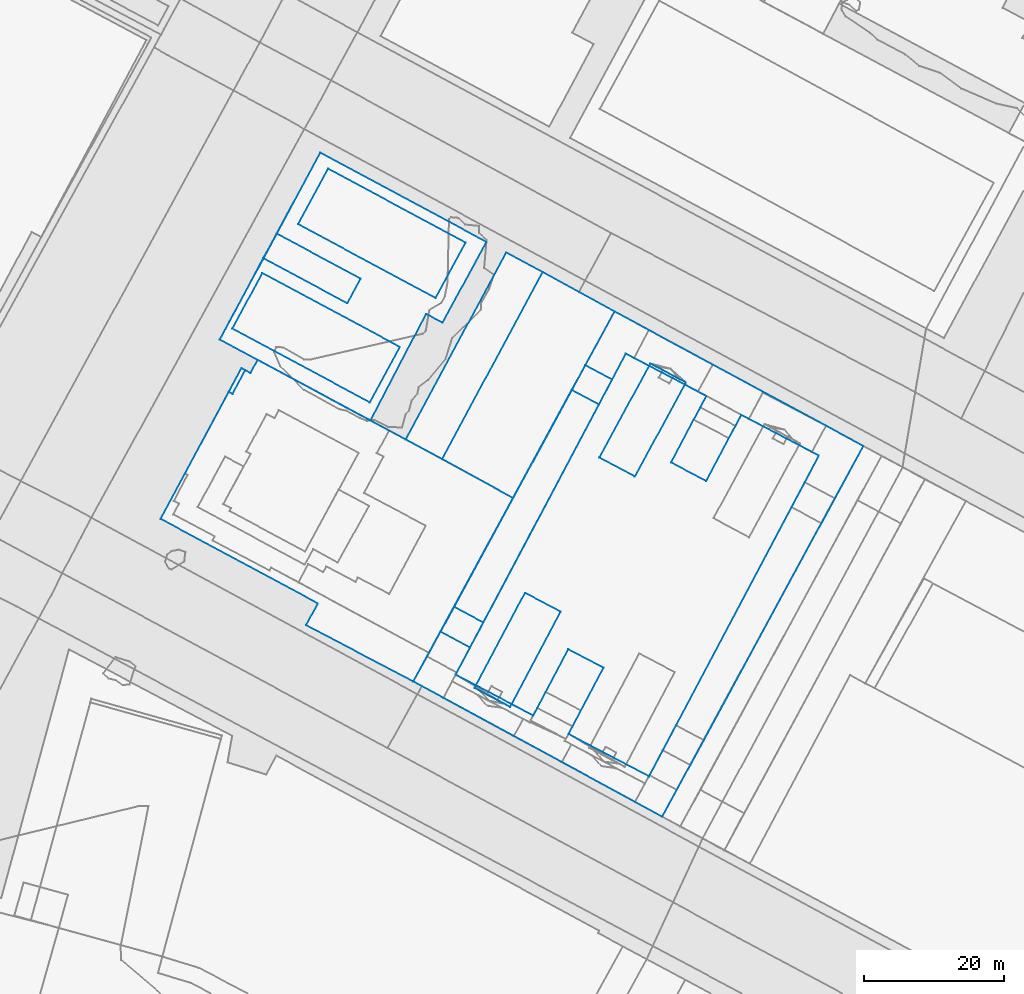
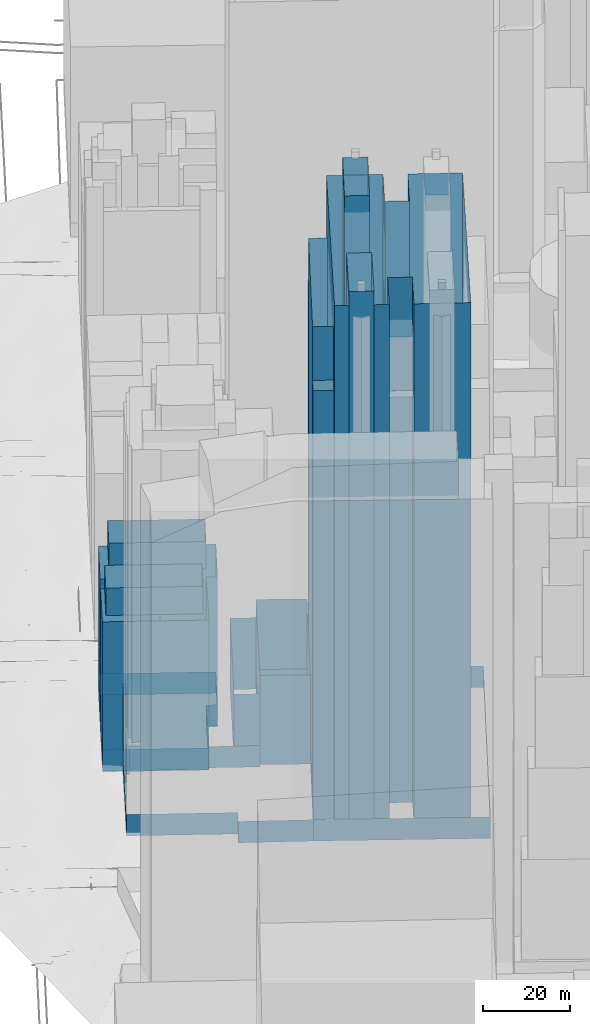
# Not in any storey, part 18 of 76: 16 walls.
"""IFC2X3 model written with IfcOpenShell, lengths in metres."""

from ifc_helpers import new_model, si_unit, frame, origin_with_axes, place, context, subcontext, project, faceted_brep, element, save


model = new_model("IFC2X3")

# Units and contexts
model_context = context("Model", 3, precision=1e-05, world=origin_with_axes())
body_context = subcontext(model_context, "Body", "Model", "MODEL_VIEW")
ifc_project = project(units=[si_unit("AREAUNIT", "SQUARE_METRE"), si_unit("LENGTHUNIT", "METRE")], contexts=[model_context])

# Walls
wall_1_placement = place(None, frame((85.8586663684, 128.8500079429, 20.7906594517), z_axis=(0.0, 0.0, 1.0), x_axis=(1.0, 0.0, 0.0)))
element("IfcWall", 1, at=wall_1_placement, Name="Mur 0", context=body_context, shape_type="Brep", body=[
    faceted_brep([(11.1010060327, -5.844095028, 147.0), (0.0, 0.0, 147.0), (11.1010060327, -5.844095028, 0.0), (0.0, 0.0, 0.0), (16.1233334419, 3.6400451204, 147.0), (16.1233334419, 3.6400451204, 0.0), (21.1599686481, 0.9895951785, 147.0), (21.1599686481, 0.9895951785, 0.0), (16.1375167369, -8.4834476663, 147.0), (16.1375167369, -8.4834476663, 0.0), (27.6547095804, -14.544729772, 147.0), (27.6547095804, -14.544729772, 0.0), (51.973663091, 31.3347461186, 147.0), (51.973663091, 31.3347461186, 0.0), (40.8642373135, 37.1786817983, 147.0), (40.8642373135, 37.1786817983, 0.0), (35.8417076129, 27.7167250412, 147.0), (35.8417076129, 27.7167250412, 0.0), (30.8135250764, 30.3672629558, 147.0), (30.8135250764, 30.3672629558, 0.0), (35.8607355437, 39.8850142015, 147.0), (35.8607355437, 39.8850142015, 0.0), (24.3521878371, 45.9352801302, 147.0), (24.3521878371, 45.9352801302, 0.0)], [[[0, 1, 2]], [[2, 1, 3]], [[4, 0, 5]], [[5, 0, 2]], [[6, 4, 7]], [[7, 4, 5]], [[8, 6, 9]], [[9, 6, 7]], [[10, 8, 11]], [[11, 8, 9]], [[12, 10, 13]], [[13, 10, 11]], [[14, 12, 15]], [[15, 12, 13]], [[16, 14, 17]], [[17, 14, 15]], [[18, 16, 19]], [[19, 16, 17]], [[20, 18, 21]], [[21, 18, 19]], [[1, 22, 3]], [[3, 22, 23]], [[22, 20, 23]], [[23, 20, 21]]]),
])
wall_2_placement = place(None, frame((79.7834254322, 127.8912834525, 20.6975796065), z_axis=(0.0, 0.0, 1.0), x_axis=(1.0, 0.0, 0.0)))
element("IfcWall", 2, at=wall_2_placement, Name="Mur 0", context=body_context, shape_type="Brep", body=[
    faceted_brep([(35.637279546, -19.3592245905, 6.0), (0.0, 0.0, 6.0), (35.637279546, -19.3592245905, 0.0), (0.0, 0.0, 0.0), (64.4060548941, 33.6885073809, 6.0), (64.4060548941, 33.6885073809, 0.0), (28.8041259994, 52.9258761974, 6.0), (28.8041259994, 52.9258761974, 0.0)], [[[0, 1, 2]], [[2, 1, 3]], [[4, 0, 5]], [[5, 0, 2]], [[1, 6, 3]], [[3, 6, 7]], [[6, 4, 7]], [[7, 4, 5]]]),
])
wall_3_placement = place(None, frame((106.4243167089, 159.930902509, 21.4761548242), z_axis=(0.0, 0.0, 1.0), x_axis=(1.0, 0.0, 0.0)))
element("IfcWall", 3, at=wall_3_placement, Name="Mur 0", context=body_context, shape_type="Brep", body=[
    faceted_brep([(5.0797232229, -2.7276618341, 151.0), (0.0, 0.0, 151.0), (5.0797232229, -2.7276618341, 0.0), (0.0, 0.0, 0.0), (12.3774646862, 10.7131197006, 151.0), (12.3774646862, 10.7131197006, 0.0), (7.2976187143, 13.4518772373, 151.0), (7.2976187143, 13.4518772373, 0.0)], [[[0, 1, 2]], [[2, 1, 3]], [[4, 0, 5]], [[5, 0, 2]], [[1, 6, 3]], [[3, 6, 7]], [[6, 4, 7]], [[7, 4, 5]]]),
])
wall_4_placement = place(None, frame((102.4881306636, 169.5885518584, 21.7443464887), z_axis=(0.0, 0.0, 1.0), x_axis=(1.0, 0.0, 0.0)))
element("IfcWall", 4, at=wall_4_placement, Name="Mur 0", context=body_context, shape_type="Brep", body=[
    faceted_brep([(3.865132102, -2.0867392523, 120.0), (0.0, 0.0, 120.0), (3.865132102, -2.0867392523, 0.0), (0.0, 0.0, 0.0), (5.7567207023, 1.4879525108, 120.0), (5.7567207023, 1.4879525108, 0.0), (1.9256092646, 3.5528813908, 120.0), (1.9256092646, 3.5528813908, 0.0)], [[[0, 1, 2]], [[2, 1, 3]], [[4, 0, 5]], [[5, 0, 2]], [[1, 6, 3]], [[3, 6, 7]], [[6, 4, 7]], [[7, 4, 5]]]),
])
wall_5_placement = place(None, frame((78.7061684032, 162.506692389, 21.2045848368), z_axis=(0.0, 0.0, 1.0), x_axis=(1.0, 0.0, 0.0)))
element("IfcWall", 5, at=wall_5_placement, Name="Mur 0", context=body_context, shape_type="Brep", body=[
    faceted_brep([(5.2156594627, -2.803817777, 20.0), (0.0, 0.0, 20.0), (5.2156594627, -2.803817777, 0.0), (0.0, 0.0, 0.0), (19.5931770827, 23.953040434, 20.0), (19.5931770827, 23.953040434, 0.0), (14.377530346, 26.7568479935, 20.0), (14.377530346, 26.7568479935, 0.0)], [[[0, 1, 2]], [[2, 1, 3]], [[4, 0, 5]], [[5, 0, 2]], [[1, 6, 3]], [[3, 6, 7]], [[6, 4, 7]], [[7, 4, 5]]]),
])
wall_6_placement = place(None, frame((53.9063589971, 178.3836490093, 62.2466982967), z_axis=(0.0, 0.0, 1.0), x_axis=(1.0, 0.0, 0.0)))
element("IfcWall", 6, at=wall_6_placement, Name="Mur 0", context=body_context, shape_type="Brep", body=[
    faceted_brep([(19.6563100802, -10.5631889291, 7.7000007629), (0.0, 0.0, 7.7000007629), (19.6563100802, -10.5631889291, 0.0), (0.0, 0.0, 0.0), (23.9622377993, -2.6305951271, 7.7000007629), (23.9622377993, -2.6305951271, 0.0), (4.2973726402, 7.9435850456, 7.7000007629), (4.2973726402, 7.9435850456, 0.0)], [[[0, 1, 2]], [[2, 1, 3]], [[4, 0, 5]], [[5, 0, 2]], [[1, 6, 3]], [[3, 6, 7]], [[6, 4, 7]], [[7, 4, 5]]]),
])
wall_7_placement = place(None, frame((52.1098467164, 176.7973780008, 20.2692366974), z_axis=(0.0, 0.0, 1.0), x_axis=(1.0, 0.0, 0.0)))
element("IfcWall", 7, at=wall_7_placement, Name="Mur 0", context=body_context, shape_type="Brep", body=[
    faceted_brep([(21.5590744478, -11.5847130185, 6.0), (0.0, 0.0, 6.0), (21.5590744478, -11.5847130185, 0.0), (0.0, 0.0, 0.0), (29.5109655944, 3.6843947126, 6.0), (29.5109655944, 3.6843947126, 0.0), (31.872471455, 2.412853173, 6.0), (31.872471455, 2.412853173, 0.0), (38.1367223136, 13.9875293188, 6.0), (38.1367223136, 13.9875293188, 0.0), (14.3775952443, 26.7567958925, 6.0), (14.3775952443, 26.7567958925, 0.0)], [[[0, 1, 2]], [[2, 1, 3]], [[4, 0, 5]], [[5, 0, 2]], [[6, 4, 7]], [[7, 4, 5]], [[8, 6, 9]], [[9, 6, 7]], [[1, 10, 3]], [[3, 10, 11]], [[10, 8, 11]], [[11, 8, 9]]]),
])
wall_8_placement = place(None, frame((52.1098467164, 176.7973780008, 20.0588630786), z_axis=(0.0, 0.0, 1.0), x_axis=(1.0, 0.0, 0.0)))
element("IfcWall", 8, at=wall_8_placement, Name="Mur 0", context=body_context, shape_type="Brep", body=[
    faceted_brep([(21.5590744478, -11.5847130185, 42.0), (0.0, 0.0, 42.0), (21.5590744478, -11.5847130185, 0.0), (0.0, 0.0, 0.0), (29.5109655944, 3.6843947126, 42.0), (29.5109655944, 3.6843947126, 0.0), (31.872471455, 2.412853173, 42.0), (31.872471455, 2.412853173, 0.0), (38.1367223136, 13.9875293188, 42.0), (38.1367223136, 13.9875293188, 0.0), (14.3775952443, 26.7567958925, 42.0), (14.3775952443, 26.7567958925, 0.0), (8.1303289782, 15.1712352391, 42.0), (8.1303289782, 15.1712352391, 0.0), (20.1415581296, 8.715946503, 42.0), (20.1415581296, 8.715946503, 0.0), (18.2324312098, 5.1965718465, 42.0), (18.2324312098, 5.1965718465, 0.0), (6.2211982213, 11.6518637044, 42.0), (6.2211982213, 11.6518637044, 0.0)], [[[0, 1, 2]], [[2, 1, 3]], [[4, 0, 5]], [[5, 0, 2]], [[6, 4, 7]], [[7, 4, 5]], [[8, 6, 9]], [[9, 6, 7]], [[10, 8, 11]], [[11, 8, 9]], [[12, 10, 13]], [[13, 10, 11]], [[14, 12, 15]], [[15, 12, 13]], [[16, 14, 17]], [[17, 14, 15]], [[1, 18, 3]], [[3, 18, 19]], [[18, 16, 19]], [[19, 16, 17]]]),
])
wall_9_placement = place(None, frame((63.3141408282, 193.3143650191, 62.430841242), z_axis=(0.0, 0.0, 1.0), x_axis=(1.0, 0.0, 0.0)))
element("IfcWall", 9, at=wall_9_placement, Name="Mur 0", context=body_context, shape_type="Brep", body=[
    faceted_brep([(19.6564142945, -10.5742645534, 7.7000007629), (0.0, 0.0, 7.7000007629), (19.6564142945, -10.5742645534, 0.0), (0.0, 0.0, 0.0), (23.9623227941, -2.6416648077, 7.7000007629), (23.9623227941, -2.6416648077, 0.0), (4.2974822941, 7.9324902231, 7.7000007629), (4.2974822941, 7.9324902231, 0.0)], [[[0, 1, 2]], [[2, 1, 3]], [[4, 0, 5]], [[5, 0, 2]], [[1, 6, 3]], [[3, 6, 7]], [[6, 4, 7]], [[7, 4, 5]]]),
])
wall_10_placement = place(None, frame((58.3310449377, 188.4492417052, 20.0588630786), z_axis=(0.0, 0.0, 1.0), x_axis=(1.0, 0.0, 0.0)))
element("IfcWall", 10, at=wall_10_placement, Name="Mur 0", context=body_context, shape_type="Brep", body=[
    faceted_brep([(12.0112329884, -6.4552918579, 5.0), (0.0, 0.0, 5.0), (12.0112329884, -6.4552918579, 0.0), (0.0, 0.0, 0.0), (13.9203599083, -2.9359172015, 5.0), (13.9203599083, -2.9359172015, 0.0), (1.9091307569, 3.5193715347, 5.0), (1.9091307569, 3.5193715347, 0.0)], [[[0, 1, 2]], [[2, 1, 3]], [[4, 0, 5]], [[5, 0, 2]], [[1, 6, 3]], [[3, 6, 7]], [[6, 4, 7]], [[7, 4, 5]]]),
])
wall_11_placement = place(None, frame((53.3786072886, 169.3069851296, 21.038693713), z_axis=(0.0, 0.0, 1.0), x_axis=(1.0, 0.0, 0.0)))
element("IfcWall", 11, at=wall_11_placement, Name="Mur 0", context=body_context, shape_type="Brep", body=[
    faceted_brep([(0.5353523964, -0.3046485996, 25.0), (0.0, 0.0, 25.0), (0.5353523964, -0.3046485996, 0.0), (0.0, 0.0, 0.0), (2.3698157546, 3.1028322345, 25.0), (2.3698157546, 3.1028322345, 0.0), (1.8261519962, 3.3962819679, 25.0), (1.8261519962, 3.3962819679, 0.0)], [[[0, 1, 2]], [[2, 1, 3]], [[4, 0, 5]], [[5, 0, 2]], [[1, 6, 3]], [[3, 6, 7]], [[6, 4, 7]], [[7, 4, 5]]]),
])
wall_12_placement = place(None, frame((43.6198790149, 151.1525582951, 20.6875388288), z_axis=(0.0, 0.0, 1.0), x_axis=(1.0, 0.0, 0.0)))
element("IfcWall", 12, at=wall_12_placement, Name="Mur 0", context=body_context, shape_type="Brep", body=[
    faceted_brep([(22.5189582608, -12.0954008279, 6.0), (0.0, 0.0, 6.0), (22.5189582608, -12.0954008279, 0.0), (0.0, 0.0, 0.0), (20.8331965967, -15.2236014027, 6.0), (20.8331965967, -15.2236014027, 0.0), (36.1635464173, -23.2612748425, 6.0), (36.1635464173, -23.2612748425, 0.0), (64.9676724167, 29.6646013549, 6.0), (64.9676724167, 29.6646013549, 0.0), (54.679466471, 35.307174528, 6.0), (54.679466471, 35.307174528, 0.0), (40.301948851, 8.550316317, 6.0), (40.301948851, 8.550316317, 0.0), (13.8924549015, 22.7432322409, 6.0), (13.8924549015, 22.7432322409, 0.0), (12.8760656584, 20.8551533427, 6.0), (12.8760656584, 20.8551533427, 0.0), (11.5848802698, 21.5507088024, 6.0), (11.5848802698, 21.5507088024, 0.0)], [[[0, 1, 2]], [[2, 1, 3]], [[4, 0, 5]], [[5, 0, 2]], [[6, 4, 7]], [[7, 4, 5]], [[8, 6, 9]], [[9, 6, 7]], [[10, 8, 11]], [[11, 8, 9]], [[12, 10, 13]], [[13, 10, 11]], [[14, 12, 15]], [[15, 12, 13]], [[16, 14, 17]], [[17, 14, 15]], [[1, 18, 3]], [[3, 18, 19]], [[18, 16, 19]], [[19, 16, 17]]]),
])
wall_13_placement = place(None, frame((83.9218278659, 159.7028746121, 21.3185794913), z_axis=(0.0, 0.0, 1.0), x_axis=(1.0, 0.0, 0.0)))
element("IfcWall", 13, at=wall_13_placement, Name="Mur 0", context=body_context, shape_type="Brep", body=[
    faceted_brep([(10.1183913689, -5.5557477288, 25.0), (0.0, 0.0, 25.0), (10.1183913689, -5.5557477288, 0.0), (0.0, 0.0, 0.0), (24.6657235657, 21.1142850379, 25.0), (24.6657235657, 21.1142850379, 0.0), (14.37751762, 26.756858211, 25.0), (14.37751762, 26.756858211, 0.0)], [[[0, 1, 2]], [[2, 1, 3]], [[4, 0, 5]], [[5, 0, 2]], [[1, 6, 3]], [[3, 6, 7]], [[6, 4, 7]], [[7, 4, 5]]]),
])
wall_14_placement = place(None, frame((85.6362783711, 138.5507919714, 21.0890233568), z_axis=(0.0, 0.0, 1.0), x_axis=(1.0, 0.0, 0.0)))
element("IfcWall", 14, at=wall_14_placement, Name="Mur 0", context=body_context, shape_type="Brep", body=[
    faceted_brep([(4.1792434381, -2.2385320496, 135.0), (0.0, 0.0, 135.0), (4.1792434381, -2.2385320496, 0.0), (0.0, 0.0, 0.0), (20.7169843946, 28.9510206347, 135.0), (20.7169843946, 28.9510206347, 0.0), (16.8518522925, 31.0377598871, 135.0), (16.8518522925, 31.0377598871, 0.0)], [[[0, 1, 2]], [[2, 1, 3]], [[4, 0, 5]], [[5, 0, 2]], [[1, 6, 3]], [[3, 6, 7]], [[6, 4, 7]], [[7, 4, 5]]]),
])
wall_15_placement = place(None, frame((88.5482734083, 126.9494492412, 20.9399890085), z_axis=(0.0, 0.0, 1.0), x_axis=(1.0, 0.0, 0.0)))
element("IfcWall", 15, at=wall_15_placement, Name="Mur 0", context=body_context, shape_type="Brep", body=[
    faceted_brep([(5.0963614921, -2.7052766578, 151.0), (0.0, 0.0, 151.0), (5.0963614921, -2.7052766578, 0.0), (0.0, 0.0, 0.0), (12.3328949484, 10.9235121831, 151.0), (12.3328949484, 10.9235121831, 0.0), (7.2282283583, 13.617585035, 151.0), (7.2282283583, 13.617585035, 0.0)], [[[0, 1, 2]], [[2, 1, 3]], [[4, 0, 5]], [[5, 0, 2]], [[1, 6, 3]], [[3, 6, 7]], [[6, 4, 7]], [[7, 4, 5]]]),
])
wall_16_placement = place(None, frame((83.7106505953, 134.9979159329, 21.0569415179), z_axis=(0.0, 0.0, 1.0), x_axis=(1.0, 0.0, 0.0)))
element("IfcWall", 16, at=wall_16_placement, Name="Mur 0", context=body_context, shape_type="Brep", body=[
    faceted_brep([(4.2049527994, -2.2715413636, 120.0), (0.0, 0.0, 120.0), (4.2049527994, -2.2715413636, 0.0), (0.0, 0.0, 0.0), (6.1048712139, 1.3143439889, 120.0), (6.1048712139, 1.3143439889, 0.0), (1.9256277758, 3.5528760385, 120.0), (1.9256277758, 3.5528760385, 0.0)], [[[0, 1, 2]], [[2, 1, 3]], [[4, 0, 5]], [[5, 0, 2]], [[1, 6, 3]], [[3, 6, 7]], [[6, 4, 7]], [[7, 4, 5]]]),
])

save(model, "model.ifc")
